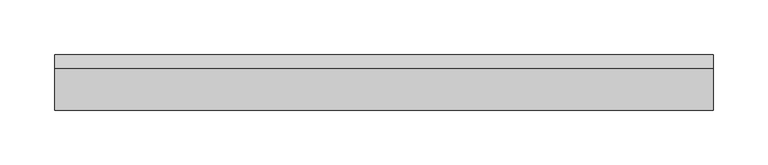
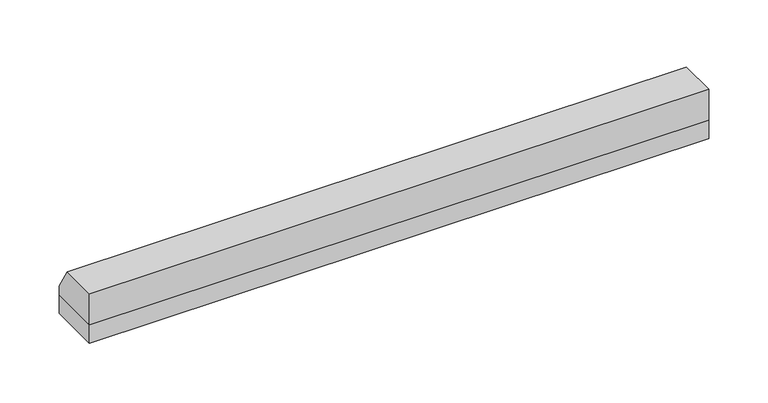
"""IFC4 building model written with IfcOpenShell, lengths in millimetres: proxy geometry, Spinneybeck_ARO Plank 7 : B - 2’-7” x 2” x 1 1/4”."""

from ifc_helpers import new_model, si_unit, frame, origin, origin_with_axes, place, context, project, spatial, polyline, outline, extrude, source, transform, mapped, element, save


def specialty_equipment_8ec0052d(model_context):
    return source(origin(), model_context, "Body", "SweptSolid", [
        extrude(outline(polyline([(25.4, 19.05), (-25.4, 19.05), (-25.4, 50.8), (12.4059581, 50.8), (25.4, 28.2936592), (25.4, 19.05)])), frame((-301.1962734, 0.0, 0.0), z_axis=(1.0, 0.0, 0.0), x_axis=(0.0, 1.0, 0.0)), (0.0, 0.0, 1.0), 602.3925468),
        extrude(outline(polyline([(-301.1962734, -25.4), (-301.1962734, 25.4), (301.1962734, 25.4), (301.1962734, -25.4), (-301.1962734, -25.4)])), origin_with_axes(), (0.0, 0.0, 1.0), 19.05),
    ])


if __name__ == "__main__":
    model = new_model("IFC4")
    model_context = context("Model", 3, world=origin())
    ifc_project = project(units=[si_unit("LENGTHUNIT", "METRE", prefix="MILLI")], contexts=[model_context])
    site = spatial("IfcSite", under=ifc_project)
    building = spatial("IfcBuilding", under=site)
    placement = place(None, origin())
    specialty_equipment_shape = specialty_equipment_8ec0052d(model_context)
    element("IfcBuildingElementProxy", 1, Name="Spinneybeck_ARO Plank 7 : B - 2’-7” x 2” x 1 1/4”", ObjectType="Spinneybeck_ARO Plank 7 : B - 2’-7” x 2” x 1 1/4”", at=placement, inside=building, context=model_context, shape_type="MappedRepresentation", body=[
        mapped(specialty_equipment_shape, transform((0.0, 0.0, 0.0), x_axis=(1.0, 0.0, 0.0), y_axis=(0.0, 1.0, 0.0), z_axis=(0.0, 0.0, 1.0))),
    ])
    save(model, "model.ifc")
